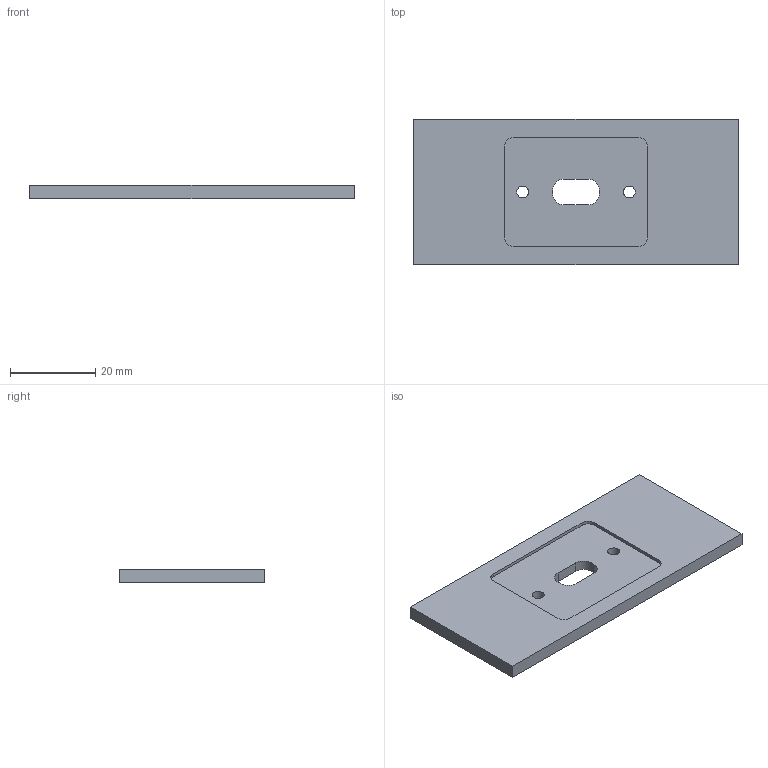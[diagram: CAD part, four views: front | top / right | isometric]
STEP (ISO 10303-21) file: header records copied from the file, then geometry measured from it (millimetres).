
FILE_DESCRIPTION(('Open CASCADE Model'),'2;1');
FILE_NAME('Open CASCADE Shape Model','2026-07-22T10:41:20',('Author'),( 'Open CASCADE'),'Open CASCADE STEP processor 7.9','Open CASCADE 7.9' ,'Unknown');
FILE_SCHEMA(('AUTOMOTIVE_DESIGN { 1 0 10303 214 1 1 1 1 }'));
Length unit declared in the file: millimetre
Products named in the file (1): Open CASCADE STEP translator 7.9 5
Bounding box: 76 x 34 x 3.2 mm (x, y, z)
Volume: 7434.3 mm3; surface area: 5930.1 mm2
Topology: 1 solids, 1 shells, 25 faces, 66 edges, 44 vertices
Faces by surface type: plane 15, cylinder 10
Full cylindrical faces by diameter (mm): 2.8 x2
Entity records: 1708 total; most frequent: CARTESIAN_POINT 364, DIRECTION 254, LINE 158, VECTOR 158, ORIENTED_EDGE 132, PCURVE 132, DEFINITIONAL_REPRESENTATION 132, EDGE_CURVE 66
